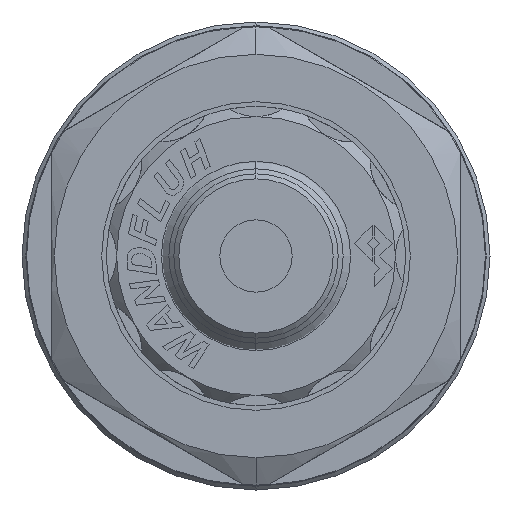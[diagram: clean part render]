
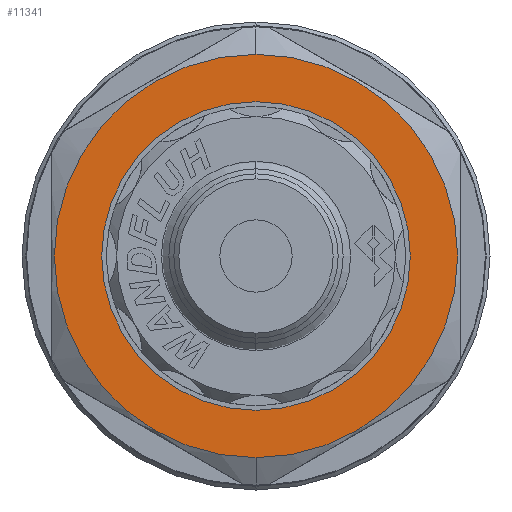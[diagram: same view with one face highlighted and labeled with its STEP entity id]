
A CAD part, left-side view. The second image highlights one B-rep face of the part: STEP entity #11341.
In plain terms, the highlighted planar face has unit normal (-1, 0, 0).
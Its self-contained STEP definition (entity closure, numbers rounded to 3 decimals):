
#88 = CIRCLE ( 'NONE', #10451, 12.25 ) ;
#399 = CIRCLE ( 'NONE', #10579, 12.25 ) ;
#3180 = ORIENTED_EDGE ( 'NONE', *, *, #15933, .T. ) ;
#3194 = ORIENTED_EDGE ( 'NONE', *, *, #16539, .T. ) ;
#3195 = ORIENTED_EDGE ( 'NONE', *, *, #17279, .T. ) ;
#3196 = ORIENTED_EDGE ( 'NONE', *, *, #17295, .T. ) ;
#5513 = AXIS2_PLACEMENT_3D ( 'NONE', #6141, #6142, #6143 ) ;
#5655 = AXIS2_PLACEMENT_3D ( 'NONE', #6225, #6226, #6227 ) ;
#5773 = FACE_BOUND ( 'NONE', #18045, .T. ) ;
#6141 = CARTESIAN_POINT ( 'NONE',  ( 0., 0., 0. ) ) ;
#6142 = DIRECTION ( 'NONE',  ( -1., 0., 0. ) ) ;
#6143 = DIRECTION ( 'NONE',  ( 0., 0., 1. ) ) ;
#6225 = CARTESIAN_POINT ( 'NONE',  ( 0., 0., 0. ) ) ;
#6226 = DIRECTION ( 'NONE',  ( -1., 0., 0. ) ) ;
#6227 = DIRECTION ( 'NONE',  ( 0., 0., 1. ) ) ;
#6487 = CARTESIAN_POINT ( 'NONE',  ( 0., 0., 12.25 ) ) ;
#6492 = CARTESIAN_POINT ( 'NONE',  ( 0., 0., -12.25 ) ) ;
#6514 = CARTESIAN_POINT ( 'NONE',  ( 0., 0., 20.25 ) ) ;
#6517 = CARTESIAN_POINT ( 'NONE',  ( 0., 0., -20.25 ) ) ;
#7024 = FACE_OUTER_BOUND ( 'NONE', #18010, .T. ) ;
#8032 = DIRECTION ( 'NONE',  ( 0., 0., -1. ) ) ;
#8033 = DIRECTION ( 'NONE',  ( 1., 0., 0. ) ) ;
#8034 = CARTESIAN_POINT ( 'NONE',  ( 0., 0., 0. ) ) ;
#8046 = PLANE ( 'NONE',  #13751 ) ;
#8459 = CIRCLE ( 'NONE', #5513, 20.25 ) ;
#8475 = CIRCLE ( 'NONE', #5655, 20.25 ) ;
#9671 = CARTESIAN_POINT ( 'NONE',  ( 0., 0., 0. ) ) ;
#9672 = DIRECTION ( 'NONE',  ( 1., 0., 0. ) ) ;
#9673 = DIRECTION ( 'NONE',  ( 0., 0., -1. ) ) ;
#10451 = AXIS2_PLACEMENT_3D ( 'NONE', #9671, #9672, #9673 ) ;
#10579 = AXIS2_PLACEMENT_3D ( 'NONE', #12503, #12504, #12505 ) ;
#11341 = ADVANCED_FACE ( 'NONE', ( #5773, #7024 ), #8046, .F. ) ;
#12503 = CARTESIAN_POINT ( 'NONE',  ( 0., 0., 0. ) ) ;
#12504 = DIRECTION ( 'NONE',  ( 1., 0., 0. ) ) ;
#12505 = DIRECTION ( 'NONE',  ( 0., 0., -1. ) ) ;
#13751 = AXIS2_PLACEMENT_3D ( 'NONE', #8034, #8033, #8032 ) ;
#15933 = EDGE_CURVE ( 'NONE', #17825, #17830, #399, .T. ) ;
#16539 = EDGE_CURVE ( 'NONE', #17830, #17825, #88, .T. ) ;
#17279 = EDGE_CURVE ( 'NONE', #17861, #17858, #8459, .T. ) ;
#17295 = EDGE_CURVE ( 'NONE', #17858, #17861, #8475, .T. ) ;
#17825 = VERTEX_POINT ( 'NONE', #6487 ) ;
#17830 = VERTEX_POINT ( 'NONE', #6492 ) ;
#17858 = VERTEX_POINT ( 'NONE', #6514 ) ;
#17861 = VERTEX_POINT ( 'NONE', #6517 ) ;
#18010 = EDGE_LOOP ( 'NONE', ( #3195, #3196 ) ) ;
#18045 = EDGE_LOOP ( 'NONE', ( #3180, #3194 ) ) ;
